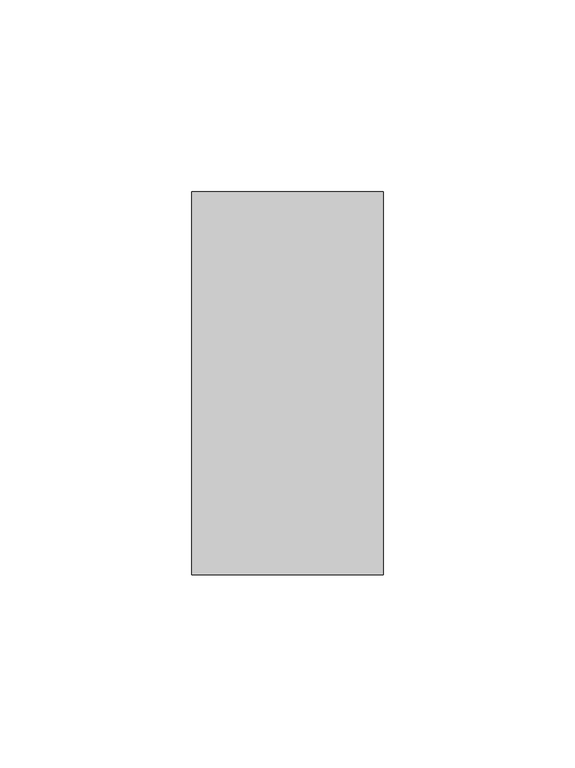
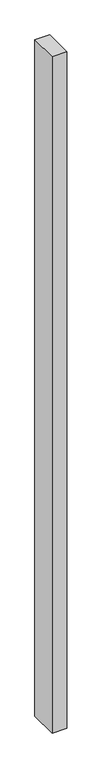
"""IFC4 building model written with IfcOpenShell, lengths in millimetres: member geometry, Прямоугольный импост : 50х100."""

import ifcopenshell
import ifcopenshell.guid

model = None  # the IFC model being written
_history = None  # IfcOwnerHistory: only IFC2X3 demands one
_inside = {}  # id of a spatial element -> (the spatial element, [elements in it])
_under = {}  # id of a project, library or spatial element -> (it, [spatial elements below it])
_declared = {}  # id of a project -> (the project, [libraries it declares])
_typed = {}  # id of a type object -> (the type object, [elements of that type])
_made_of = {}  # id of a material, layer set ... -> (it, [elements and type objects made of it])


def new_model(schema):
    """Start an empty IFC model of exactly this schema.

    Asked for "IFC4X3", IfcOpenShell would pick the latest addendum, in which some entities
    have other attributes; the version numbers below select the first issue.
    IFC2X3 requires an IfcOwnerHistory on every rooted entity: one is made here for all.
    """
    global model, _history
    if schema == "IFC4X3":
        model = ifcopenshell.file(schema_version=(4, 3, 0, 0))
    else:
        model = ifcopenshell.file(schema=schema)
    _inside.clear()
    _under.clear()
    _declared.clear()
    _typed.clear()
    _made_of.clear()
    _history = None
    if model.schema == "IFC2X3":
        org = make("IfcOrganization", Name="unknown")
        user = make(
            "IfcPersonAndOrganization",
            ThePerson=make("IfcPerson", FamilyName="unknown"),
            TheOrganization=org,
        )
        app = make(
            "IfcApplication",
            ApplicationDeveloper=org,
            Version="unknown",
            ApplicationFullName="unknown",
            ApplicationIdentifier="unknown",
        )
        _history = make(
            "IfcOwnerHistory",
            OwningUser=user,
            OwningApplication=app,
            ChangeAction="ADDED",
            CreationDate=0,
        )
    return model


def make(cls, **values):
    """One entity of the class cls with the attributes given. An attribute that is None is left unset."""
    return model.create_entity(
        cls, **{name: value for name, value in values.items() if value is not None}
    )


def rooted(cls, **values):
    """An entity with a GlobalId (a new one), such as an element, a storey or a relation."""
    return make(cls, GlobalId=ifcopenshell.guid.new(), OwnerHistory=_history, **values)


def si_unit(unit_type, name, prefix=None):
    """IfcSIUnit, for example si_unit("LENGTHUNIT", "METRE", prefix="MILLI")."""
    return make("IfcSIUnit", UnitType=unit_type, Prefix=prefix, Name=name)


def assignment(units):
    """IfcUnitAssignment: the units of a project."""
    return None if units is None else make("IfcUnitAssignment", Units=units)


def point(xyz):
    """IfcCartesianPoint."""
    return None if xyz is None else make("IfcCartesianPoint", Coordinates=xyz)


def direction(xyz):
    """IfcDirection."""
    return None if xyz is None else make("IfcDirection", DirectionRatios=xyz)


def frame(location, z_axis=None, x_axis=None):
    """IfcAxis2Placement3D, a coordinate frame: its origin and axes. An axis left out is left unset."""
    return make(
        "IfcAxis2Placement3D",
        Location=point(location),
        Axis=direction(z_axis),
        RefDirection=direction(x_axis),
    )


def origin():
    """The frame at (0, 0, 0) with its axes left unset."""
    return frame((0.0, 0.0, 0.0))


def place(relative_to, where):
    """IfcLocalPlacement: puts the frame where relative to a parent placement (None: the world)."""
    return make(
        "IfcLocalPlacement", PlacementRelTo=relative_to, RelativePlacement=where
    )


def context(
    kind, dimensions, precision=None, world=None, true_north=None, identifier=None
):
    """IfcGeometricRepresentationContext, for example the 3D "Model" context."""
    return make(
        "IfcGeometricRepresentationContext",
        ContextIdentifier=identifier,
        ContextType=kind,
        CoordinateSpaceDimension=dimensions,
        Precision=precision,
        WorldCoordinateSystem=world,
        TrueNorth=true_north,
    )


def project(units=None, contexts=None):
    """IfcProject with its units and contexts."""
    return rooted(
        "IfcProject",
        Name="project",
        RepresentationContexts=contexts,
        UnitsInContext=assignment(units),
    )


def spatial(cls, under=None, at=None, **own):
    """A site, building, storey or space (cls), placed at a placement, below another one or the project."""
    s = rooted(cls, ObjectPlacement=at, **own)
    if under is not None:
        _under.setdefault(under.id(), (under, []))[1].append(s)
    return s


def polyline(points):
    """IfcPolyline through the points."""
    return make("IfcPolyline", Points=[point(p) for p in points])


def outline(outer, holes=None, kind="AREA"):
    """IfcArbitraryClosedProfileDef: a profile drawn as a closed curve; with holes, ...WithVoids."""
    if holes is None:
        return make("IfcArbitraryClosedProfileDef", ProfileType=kind, OuterCurve=outer)
    return make(
        "IfcArbitraryProfileDefWithVoids",
        ProfileType=kind,
        OuterCurve=outer,
        InnerCurves=holes,
    )


def extrude(swept, where, along, depth):
    """IfcExtrudedAreaSolid: the profile swept, set in the frame where, extruded along a direction by depth."""
    return make(
        "IfcExtrudedAreaSolid",
        SweptArea=swept,
        Position=where,
        ExtrudedDirection=direction(along),
        Depth=depth,
    )


def shape(context_of_items, identifier, shape_type, items):
    """IfcShapeRepresentation: the items that make up one representation, for example the "Body"."""
    return make(
        "IfcShapeRepresentation",
        ContextOfItems=context_of_items,
        RepresentationIdentifier=identifier,
        RepresentationType=shape_type,
        Items=items,
    )


def source(mapping_origin, context_of_items, identifier, shape_type, items):
    """IfcRepresentationMap: a shape defined once, which mapped items show again and again."""
    return make(
        "IfcRepresentationMap",
        MappingOrigin=mapping_origin,
        MappedRepresentation=shape(context_of_items, identifier, shape_type, items),
    )


def transform(
    local_origin,
    x_axis=None,
    y_axis=None,
    z_axis=None,
    scale=None,
    scale2=None,
    scale3=None,
    uniform=True,
):
    """IfcCartesianTransformationOperator3D, or its non-uniform kind. x_axis, y_axis, z_axis: its Axis1, 2, 3."""
    if uniform:
        return make(
            "IfcCartesianTransformationOperator3D",
            Axis1=direction(x_axis),
            Axis2=direction(y_axis),
            LocalOrigin=point(local_origin),
            Scale=scale,
            Axis3=direction(z_axis),
        )
    return make(
        "IfcCartesianTransformationOperator3DnonUniform",
        Axis1=direction(x_axis),
        Axis2=direction(y_axis),
        LocalOrigin=point(local_origin),
        Scale=scale,
        Axis3=direction(z_axis),
        Scale2=scale2,
        Scale3=scale3,
    )


def mapped(mapping_source, mapping_target):
    """IfcMappedItem: shows the shape of a source again, moved by a transform."""
    return make(
        "IfcMappedItem", MappingSource=mapping_source, MappingTarget=mapping_target
    )


def made_of(thing, what):
    """Note that an element or type object is made of a material, layer set ...; save() writes the relation."""
    if what is not None:
        _made_of.setdefault(what.id(), (what, []))[1].append(thing)
    return thing


def element(
    cls,
    number,
    at=None,
    inside=None,
    cuts=None,
    type_object=None,
    material=None,
    context=None,
    identifier="Body",
    shape_type=None,
    held_by="IfcProductDefinitionShape",
    body=None,
    shapes=None,
    **own,
):
    """One element of the class cls, such as IfcWall. Its Tag is "e" and its number.

    at: its placement. inside: the storey or other place that contains it. cuts: it is an
    opening in that element (IfcRelVoidsElement). A single representation is given by context,
    identifier, shape_type and body (its items); several are given by shapes. held_by: the class
    of the entity that holds the representations. save() writes the other relations.
    """
    e = rooted(cls, Tag="e%d" % number, ObjectPlacement=at, **own)
    if body is not None:
        shapes = [shape(context, identifier, shape_type, body)]
    if shapes is not None:
        e.Representation = make(held_by, Representations=shapes)
    if inside is not None:
        _inside.setdefault(inside.id(), (inside, []))[1].append(e)
    if cuts is not None:
        rooted(
            "IfcRelVoidsElement", RelatingBuildingElement=cuts, RelatedOpeningElement=e
        )
    if type_object is not None:
        _typed.setdefault(type_object.id(), (type_object, []))[1].append(e)
    return made_of(e, material)


def aggregate(whole, parts):
    """IfcRelAggregates: a whole, such as a stair, and the parts it consists of."""
    return rooted("IfcRelAggregates", RelatingObject=whole, RelatedObjects=parts)


def save(model, path):
    """Write the relations noted so far, then the file.

    IfcRelAggregates (storeys below a building ...), IfcRelContainedInSpatialStructure (elements
    in a storey), IfcRelDefinesByType, IfcRelAssociatesMaterial and IfcRelDeclares: one each for
    every whole, place, type object, material and project.
    """
    for whole, parts in _under.values():
        aggregate(whole, parts)
    for where, things in _inside.values():
        rooted(
            "IfcRelContainedInSpatialStructure",
            RelatedElements=things,
            RelatingStructure=where,
        )
    for kind, things in _typed.values():
        rooted("IfcRelDefinesByType", RelatedObjects=things, RelatingType=kind)
    for what, things in _made_of.values():
        rooted("IfcRelAssociatesMaterial", RelatedObjects=things, RelatingMaterial=what)
    for by, libraries in _declared.values():
        rooted("IfcRelDeclares", RelatingContext=by, RelatedDefinitions=libraries)
    model.write(path)


def member_779ca808(model_context):
    return source(origin(), model_context, "Body", "SweptSolid", [
        extrude(outline(polyline([(0.0, 50.0), (0.0, -50.0), (-50.0, -50.0), (-50.0, 50.0), (0.0, 50.0)])), frame((0.0, 0.0, -2400.0), z_axis=(0.0, 0.0, 1.0), x_axis=(1.0, 0.0, 0.0)), (0.0, 0.0, 1.0), 2400.0),
    ])


if __name__ == "__main__":
    model = new_model("IFC4")
    model_context = context("Model", 3, world=origin())
    ifc_project = project(units=[si_unit("LENGTHUNIT", "METRE", prefix="MILLI")], contexts=[model_context])
    site = spatial("IfcSite", under=ifc_project)
    building = spatial("IfcBuilding", under=site)
    placement = place(None, origin())
    member_shape = member_779ca808(model_context)
    element("IfcMember", 1, ObjectType="Прямоугольный импост : 50х100", at=placement, inside=building, context=model_context, shape_type="MappedRepresentation", body=[
        mapped(member_shape, transform((0.0, 0.0, 0.0), x_axis=(1.0, 0.0, 0.0), y_axis=(0.0, 1.0, 0.0), z_axis=(0.0, 0.0, 1.0))),
    ])
    save(model, "model.ifc")
